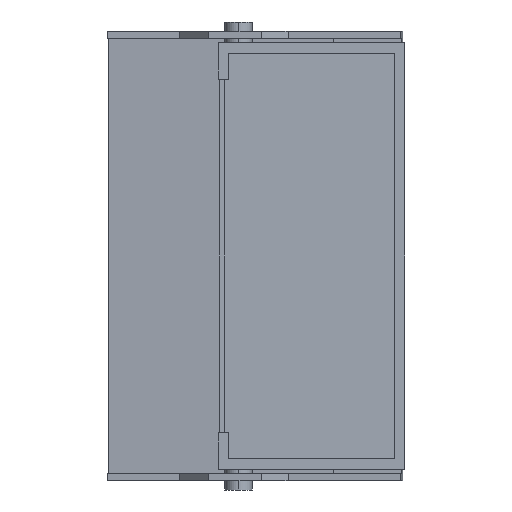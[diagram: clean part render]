
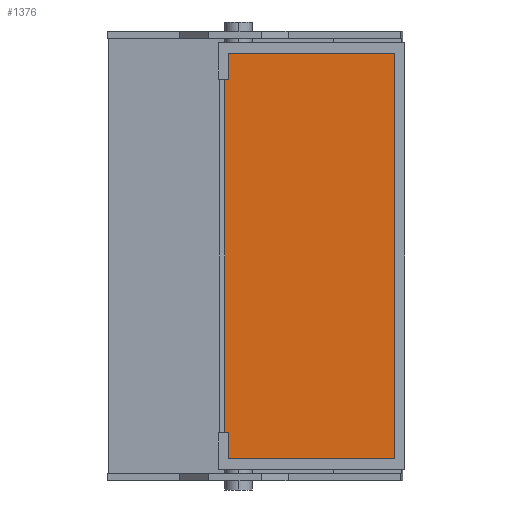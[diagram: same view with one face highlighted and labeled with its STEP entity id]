
A CAD part, left-side view. The second image highlights one B-rep face of the part: STEP entity #1376.
In plain terms, the highlighted planar face has unit normal (-1, 0, 0).
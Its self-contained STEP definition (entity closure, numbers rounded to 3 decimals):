
#17 = EDGE_LOOP ( 'NONE', ( #2396, #601, #1468, #287 ) ) ;
#31 = DIRECTION ( 'NONE',  ( 0., 1., 0. ) ) ;
#99 = VECTOR ( 'NONE', #962, 1000. ) ;
#154 = VERTEX_POINT ( 'NONE', #2173 ) ;
#178 = EDGE_CURVE ( 'NONE', #154, #1855, #1603, .T. ) ;
#225 = VERTEX_POINT ( 'NONE', #504 ) ;
#287 = ORIENTED_EDGE ( 'NONE', *, *, #178, .F. ) ;
#296 = VECTOR ( 'NONE', #2247, 1000. ) ;
#332 = CARTESIAN_POINT ( 'NONE',  ( -16.3, -20.8, 46.7 ) ) ;
#410 = CARTESIAN_POINT ( 'NONE',  ( -16.3, -23.1, -97.838 ) ) ;
#477 = LINE ( 'NONE', #677, #845 ) ;
#504 = CARTESIAN_POINT ( 'NONE',  ( -16.3, -20.8, 46.7 ) ) ;
#532 = DIRECTION ( 'NONE',  ( 0., 0., 1. ) ) ;
#601 = ORIENTED_EDGE ( 'NONE', *, *, #2580, .T. ) ;
#647 = DIRECTION ( 'NONE',  ( 0., 0., -1. ) ) ;
#677 = CARTESIAN_POINT ( 'NONE',  ( -16.3, -23.1, 46.7 ) ) ;
#845 = VECTOR ( 'NONE', #31, 1000. ) ;
#863 = DIRECTION ( 'NONE',  ( 1., 0., 0. ) ) ;
#962 = DIRECTION ( 'NONE',  ( 0., 0., 1. ) ) ;
#1030 = VECTOR ( 'NONE', #532, 1000. ) ;
#1080 = PLANE ( 'NONE',  #1807 ) ;
#1345 = FACE_OUTER_BOUND ( 'NONE', #17, .T. ) ;
#1360 = VERTEX_POINT ( 'NONE', #2681 ) ;
#1376 = ADVANCED_FACE ( 'NONE', ( #1345 ), #1080, .F. ) ;
#1468 = ORIENTED_EDGE ( 'NONE', *, *, #2440, .T. ) ;
#1545 = LINE ( 'NONE', #2442, #296 ) ;
#1603 = LINE ( 'NONE', #2240, #99 ) ;
#1807 = AXIS2_PLACEMENT_3D ( 'NONE', #410, #863, #647 ) ;
#1855 = VERTEX_POINT ( 'NONE', #1950 ) ;
#1862 = LINE ( 'NONE', #332, #1030 ) ;
#1950 = CARTESIAN_POINT ( 'NONE',  ( -16.3, 16.3, 46.7 ) ) ;
#2173 = CARTESIAN_POINT ( 'NONE',  ( -16.3, 16.3, -46.7 ) ) ;
#2240 = CARTESIAN_POINT ( 'NONE',  ( -16.3, 16.3, -97.838 ) ) ;
#2247 = DIRECTION ( 'NONE',  ( 0., 1., 0. ) ) ;
#2396 = ORIENTED_EDGE ( 'NONE', *, *, #2410, .F. ) ;
#2410 = EDGE_CURVE ( 'NONE', #1360, #154, #1545, .T. ) ;
#2440 = EDGE_CURVE ( 'NONE', #225, #1855, #477, .T. ) ;
#2442 = CARTESIAN_POINT ( 'NONE',  ( -16.3, -23.1, -46.7 ) ) ;
#2580 = EDGE_CURVE ( 'NONE', #1360, #225, #1862, .T. ) ;
#2681 = CARTESIAN_POINT ( 'NONE',  ( -16.3, -20.8, -46.7 ) ) ;
